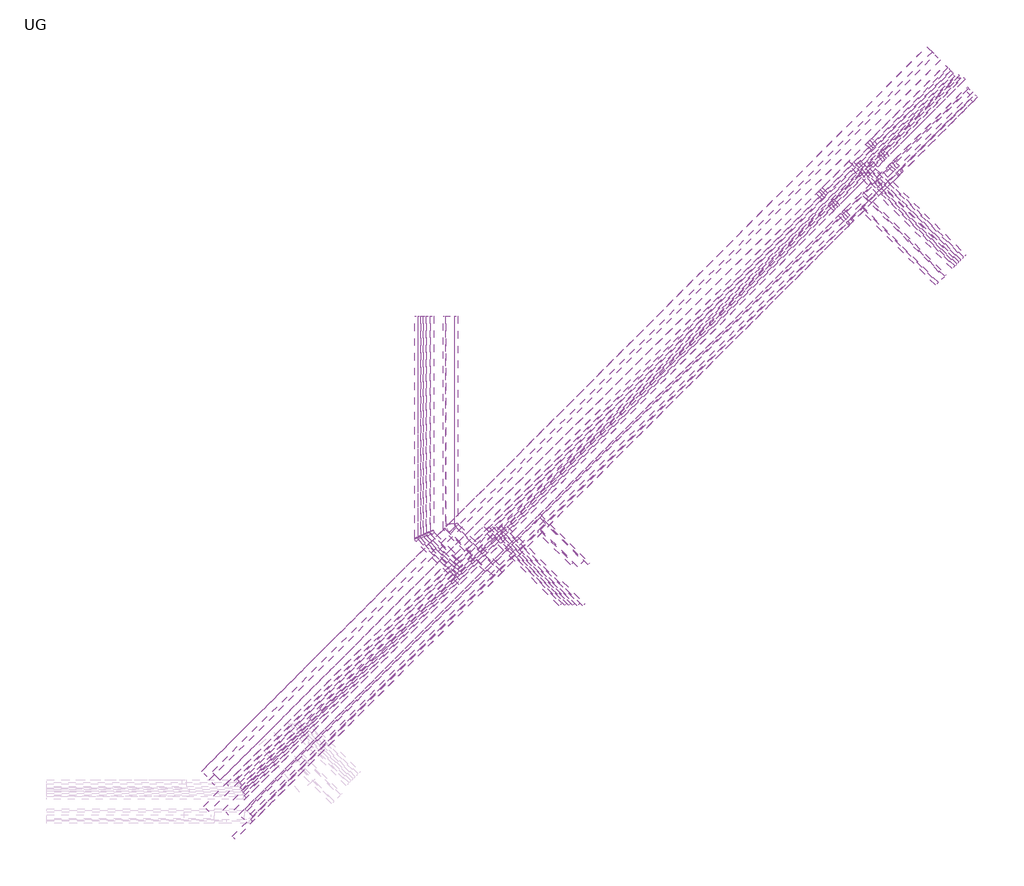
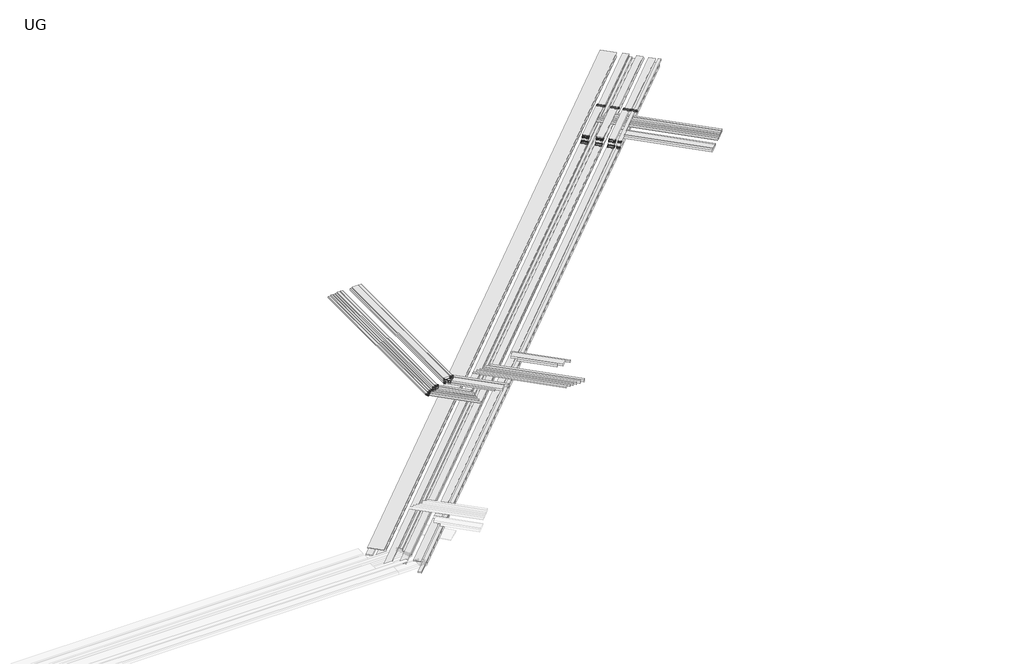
# One storey, part 14 of 14: 69 cable carrier segments, 30 cable carrier fittings.
"""IFC4 building model written with IfcOpenShell, lengths in millimetres."""

from ifc_helpers import new_model, si_unit, frame, origin, place, context, project, spatial, polyline, outline, extrude, transform, mapped, element, save
from components import cable_tray_horizontal_bend_a37de1d9, cable_tray_horizontal_bend_59db2054, cable_tray_horizontal_bend_460281a5, cable_tray_horizontal_bend_0aeb7664, cable_tray_reducer_1f1c3eca, cable_tray_reducer_8bddff3d, cable_tray_reducer_52994057, cable_tray_vertical_inside_bend_f6baaffd, cable_tray_vertical_inside_bend_2483429f, cable_tray_vertical_inside_bend_ecdc1448, cable_tray_vertical_inside_bend_bc6060de, cable_tray_vertical_outside_bend_59e16c32, cable_tray_vertical_outside_bend_fb3c5a79, cable_tray_vertical_outside_bend_d71164e9, cable_tray_vertical_outside_bend_15fc6071

model = new_model("IFC4")

# Units and contexts
model_context = context("Model", 3, world=origin())
ifc_project = project(units=[si_unit("LENGTHUNIT", "METRE", prefix="MILLI")], contexts=[model_context])

# Site, building, storey
site = spatial("IfcSite", under=ifc_project)
building = spatial("IfcBuilding", under=site)
storey = spatial("IfcBuildingStorey", under=building, Name="UG", Elevation=7925.0)

# Cable carrier fittings
placement = place(None, origin())
cable_tray_horizontal_bend_shape = cable_tray_horizontal_bend_a37de1d9(model_context)
element("IfcCableCarrierFitting", 1, ObjectType="Cable Tray Horizontal Bend : ELEC_ELV_TKG_N2402", at=placement, inside=storey, context=model_context, shape_type="MappedRepresentation", body=[
    mapped(cable_tray_horizontal_bend_shape, transform((265042.2929185, 37972.5027559, 13124.9999954), x_axis=(0.0, -1.0, 0.0), y_axis=(1.0, 0.0, 0.0), z_axis=(0.0, 0.0, 1.0))),
])
element("IfcCableCarrierFitting", 2, ObjectType="Cable Tray Horizontal Bend : ELEC_ELV_TKG_N2402", at=placement, inside=storey, context=model_context, shape_type="MappedRepresentation", body=[
    mapped(cable_tray_horizontal_bend_shape, transform((264042.2929149, 37664.590848, 13124.9999954), x_axis=(0.0, -1.0, 0.0), y_axis=(1.0, 0.0, 0.0), z_axis=(0.0, 0.0, 1.0))),
])
element("IfcCableCarrierFitting", 3, ObjectType="Cable Tray Horizontal Bend : ELEC_ELV_TKG_N2402", at=placement, inside=storey, context=model_context, shape_type="MappedRepresentation", body=[
    mapped(cable_tray_horizontal_bend_shape, transform((263742.2929149, 37540.3267793, 13124.9999954), x_axis=(0.0, -1.0, 0.0), y_axis=(1.0, 0.0, 0.0), z_axis=(0.0, 0.0, 1.0))),
])
cable_tray_horizontal_bend_2_shape = cable_tray_horizontal_bend_59db2054(model_context)
element("IfcCableCarrierFitting", 4, ObjectType="Cable Tray Horizontal Bend : ELEC_ELV_TKG_N2402", at=placement, inside=storey, context=model_context, shape_type="MappedRepresentation", body=[
    mapped(cable_tray_horizontal_bend_2_shape, transform((265667.2929139, 38231.386237, 13150.0), x_axis=(0.0, -1.0, 0.0), y_axis=(1.0, 0.0, 0.0), z_axis=(0.0, 0.0, 1.0))),
])
element("IfcCableCarrierFitting", 5, ObjectType="Cable Tray Horizontal Bend : ELEC_ELV_TKG_N2402", at=placement, inside=storey, context=model_context, shape_type="MappedRepresentation", body=[
    mapped(cable_tray_horizontal_bend_2_shape, transform((264417.2929149, 37819.9209339, 13149.9999954), x_axis=(0.0, -1.0, 0.0), y_axis=(1.0, 0.0, 0.0), z_axis=(0.0, 0.0, 1.0))),
])
element("IfcCableCarrierFitting", 6, ObjectType="Cable Tray Horizontal Bend : ELEC_ELV_TKG_N2402", at=placement, inside=storey, context=model_context, shape_type="MappedRepresentation", body=[
    mapped(cable_tray_horizontal_bend_2_shape, transform((264217.2929149, 37737.0782214, 13149.9999954), x_axis=(0.0, -1.0, 0.0), y_axis=(1.0, 0.0, 0.0), z_axis=(0.0, 0.0, 1.0))),
])
cable_tray_horizontal_bend_3_shape = cable_tray_horizontal_bend_460281a5(model_context)
element("IfcCableCarrierFitting", 7, ObjectType="Cable Tray Horizontal Bend : ELEC_ELV_TKG_N2402", at=placement, inside=storey, context=model_context, shape_type="MappedRepresentation", body=[
    mapped(cable_tray_horizontal_bend_3_shape, transform((265342.2929185, 38096.7668246, 13149.9999954), x_axis=(0.0, -1.0, 0.0), y_axis=(1.0, 0.0, 0.0), z_axis=(0.0, 0.0, 1.0))),
])
cable_tray_horizontal_bend_4_shape = cable_tray_horizontal_bend_0aeb7664(model_context)
element("IfcCableCarrierFitting", 8, ObjectType="Cable Tray Horizontal Bend : ELEC_ELV_CT_N2402", at=placement, inside=storey, context=model_context, shape_type="MappedRepresentation", body=[
    mapped(cable_tray_horizontal_bend_4_shape, transform((263592.292909, 37442.8394118, 13099.9999954), x_axis=(0.0, -1.0, 0.0), y_axis=(1.0, 0.0, 0.0), z_axis=(0.0, 0.0, 1.0))),
])
cable_tray_reducer_shape = cable_tray_reducer_1f1c3eca(model_context)
element("IfcCableCarrierFitting", 9, ObjectType="Cable Tray Reducer : ELEC_ELV_TKG_N2402", at=placement, inside=storey, context=model_context, shape_type="MappedRepresentation", body=[
    mapped(cable_tray_reducer_shape, transform((264417.2929149, 37882.0529682, 13149.9999954), x_axis=(0.0, 1.0, 0.0), y_axis=(-1.0, 0.0, 0.0), z_axis=(0.0, 0.0, 1.0))),
])
element("IfcCableCarrierFitting", 10, ObjectType="Cable Tray Reducer : ELEC_ELV_TKG_N2402", at=placement, inside=storey, context=model_context, shape_type="MappedRepresentation", body=[
    mapped(cable_tray_reducer_shape, transform((264217.2929149, 37799.2102558, 13149.9999954), x_axis=(0.0, 1.0, 0.0), y_axis=(-1.0, 0.0, 0.0), z_axis=(0.0, 0.0, 1.0))),
])
cable_tray_reducer_2_shape = cable_tray_reducer_8bddff3d(model_context)
element("IfcCableCarrierFitting", 11, ObjectType="Cable Tray Reducer : ELEC_ELV_TKG_N2402", at=placement, inside=storey, context=model_context, shape_type="MappedRepresentation", body=[
    mapped(cable_tray_reducer_2_shape, transform((264042.2929149, 37706.0122042, 13124.9999954), x_axis=(0.0, 1.0, 0.0), y_axis=(-1.0, 0.0, 0.0), z_axis=(0.0, 0.0, 1.0))),
])
element("IfcCableCarrierFitting", 12, ObjectType="Cable Tray Reducer : ELEC_ELV_TKG_N2402", at=placement, inside=storey, context=model_context, shape_type="MappedRepresentation", body=[
    mapped(cable_tray_reducer_2_shape, transform((263892.2929149, 37643.8801699, 13124.9999954), x_axis=(0.0, 1.0, 0.0), y_axis=(-1.0, 0.0, 0.0), z_axis=(0.0, 0.0, 1.0))),
])
element("IfcCableCarrierFitting", 13, ObjectType="Cable Tray Reducer : ELEC_ELV_TKG_N2402", at=placement, inside=storey, context=model_context, shape_type="MappedRepresentation", body=[
    mapped(cable_tray_reducer_2_shape, transform((263742.2929149, 37581.7481355, 13124.9999954), x_axis=(0.0, 1.0, 0.0), y_axis=(-1.0, 0.0, 0.0), z_axis=(0.0, 0.0, 1.0))),
])
cable_tray_reducer_3_shape = cable_tray_reducer_52994057(model_context)
element("IfcCableCarrierFitting", 14, ObjectType="Cable Tray Reducer : ELEC_ELV_TKG_N2402", at=placement, inside=storey, context=model_context, shape_type="MappedRepresentation", body=[
    mapped(cable_tray_reducer_3_shape, transform((263592.292909, 37504.9714461, 13099.9999954), x_axis=(0.0, 1.0, 0.0), y_axis=(-1.0, 0.0, 0.0), z_axis=(0.0, 0.0, 1.0))),
])
cable_tray_vertical_inside_bend_shape = cable_tray_vertical_inside_bend_f6baaffd(model_context)
element("IfcCableCarrierFitting", 15, ObjectType="Cable Tray Vertical Inside Bend : ELEC_SUB_CT_N2402", at=placement, inside=storey, context=model_context, shape_type="MappedRepresentation", body=[
    mapped(cable_tray_vertical_inside_bend_shape, transform((284436.8327025, 55215.2179171, 13025.0000358), x_axis=(-0.49999999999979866, -0.500000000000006, -0.7071067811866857), y_axis=(-0.5000000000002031, -0.49999999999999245, 0.7071067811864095), z_axis=(-0.7071067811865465, 0.7071067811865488, 0.0))),
])
element("IfcCableCarrierFitting", 16, ObjectType="Cable Tray Vertical Inside Bend : ELEC_SUB_CT_N2402", at=placement, inside=storey, context=model_context, shape_type="MappedRepresentation", body=[
    mapped(cable_tray_vertical_inside_bend_shape, transform((285038.4713292, 54613.5792904, 13025.0000358), x_axis=(-0.5000000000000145, -0.4999999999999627, -0.7071067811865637), y_axis=(-0.499999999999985, -0.5000000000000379, 0.7071067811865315), z_axis=(-0.7071067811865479, 0.7071067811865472, 0.0))),
])
element("IfcCableCarrierFitting", 17, ObjectType="Cable Tray Vertical Inside Bend : ELEC_SUB_CT_N2402", at=placement, inside=storey, context=model_context, shape_type="MappedRepresentation", body=[
    mapped(cable_tray_vertical_inside_bend_shape, transform((285568.2035459, 54083.8470738, 13025.0000368), x_axis=(-0.5000000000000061, -0.49999999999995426, -0.7071067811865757), y_axis=(-0.49999999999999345, -0.5000000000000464, 0.7071067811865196), z_axis=(-0.707106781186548, 0.7071067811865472, 0.0))),
])
cable_tray_vertical_inside_bend_2_shape = cable_tray_vertical_inside_bend_2483429f(model_context)
element("IfcCableCarrierFitting", 18, ObjectType="Cable Tray Vertical Inside Bend : ELEC_SUB_CT_N2402", at=placement, inside=storey, context=model_context, shape_type="MappedRepresentation", body=[
    mapped(cable_tray_vertical_inside_bend_2_shape, transform((288608.7627028, 56488.010132, 13025.0000383), x_axis=(-0.7071067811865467, -0.7071067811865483, 0.0), y_axis=(0.0, 0.0, 1.0), z_axis=(-0.7071067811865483, 0.7071067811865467, 0.0))),
])
cable_tray_vertical_inside_bend_3_shape = cable_tray_vertical_inside_bend_ecdc1448(model_context)
element("IfcCableCarrierFitting", 19, ObjectType="Cable Tray Vertical Inside Bend : ELEC_SUB_CT_N2402", at=placement, inside=storey, context=model_context, shape_type="MappedRepresentation", body=[
    mapped(cable_tray_vertical_inside_bend_3_shape, transform((287159.1938101, 57937.5790247, 13025.0000358), x_axis=(-0.7071067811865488, -0.7071067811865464, 0.0), y_axis=(0.0, 0.0, 1.0), z_axis=(-0.7071067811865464, 0.7071067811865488, 0.0))),
])
element("IfcCableCarrierFitting", 20, ObjectType="Cable Tray Vertical Inside Bend : ELEC_SUB_CT_N2402", at=placement, inside=storey, context=model_context, shape_type="MappedRepresentation", body=[
    mapped(cable_tray_vertical_inside_bend_3_shape, transform((287760.8324368, 57335.940398, 13025.0000358), x_axis=(-0.7071067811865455, -0.7071067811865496, 0.0), y_axis=(0.0, 0.0, 1.0), z_axis=(-0.7071067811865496, 0.7071067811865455, 0.0))),
])
element("IfcCableCarrierFitting", 21, ObjectType="Cable Tray Vertical Inside Bend : ELEC_SUB_CT_N2402", at=placement, inside=storey, context=model_context, shape_type="MappedRepresentation", body=[
    mapped(cable_tray_vertical_inside_bend_3_shape, transform((288290.5646534, 56806.2081814, 13025.0000368), x_axis=(-0.7071067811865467, -0.7071067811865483, 0.0), y_axis=(0.0, 0.0, 1.0), z_axis=(-0.7071067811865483, 0.7071067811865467, 0.0))),
])
cable_tray_vertical_inside_bend_4_shape = cable_tray_vertical_inside_bend_bc6060de(model_context)
element("IfcCableCarrierFitting", 22, ObjectType="Cable Tray Vertical Inside Bend : ELEC_SUB_CT_N2402", at=placement, inside=storey, context=model_context, shape_type="MappedRepresentation", body=[
    mapped(cable_tray_vertical_inside_bend_4_shape, transform((285886.4015953, 53765.6490244, 13025.0000383), x_axis=(0.707106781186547, 0.707106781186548, 0.0), y_axis=(0.0, 0.0, 1.0), z_axis=(0.707106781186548, -0.707106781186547, 0.0))),
])
cable_tray_vertical_outside_bend_shape = cable_tray_vertical_outside_bend_59e16c32(model_context)
element("IfcCableCarrierFitting", 23, ObjectType="Cable Tray Vertical Outside Bend : ELEC_SUB_CT_N2402", at=placement, inside=storey, context=model_context, shape_type="MappedRepresentation", body=[
    mapped(cable_tray_vertical_outside_bend_shape, transform((284613.6093725, 55391.9945871, 13275.0), x_axis=(0.49999999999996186, 0.4999999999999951, 0.707106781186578), y_axis=(0.5000000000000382, 0.5000000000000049, -0.7071067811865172), z_axis=(-0.7071067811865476, 0.7071067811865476, 0.0))),
])
element("IfcCableCarrierFitting", 24, ObjectType="Cable Tray Vertical Outside Bend : ELEC_SUB_CT_N2402", at=placement, inside=storey, context=model_context, shape_type="MappedRepresentation", body=[
    mapped(cable_tray_vertical_outside_bend_shape, transform((285215.2479992, 54790.3559604, 13275.0), x_axis=(0.5000000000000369, 0.49999999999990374, 0.7071067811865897), y_axis=(0.49999999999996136, 0.5000000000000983, -0.7071067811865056), z_axis=(-0.7071067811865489, 0.7071067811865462, 0.0))),
])
element("IfcCableCarrierFitting", 25, ObjectType="Cable Tray Vertical Outside Bend : ELEC_SUB_CT_N2402", at=placement, inside=storey, context=model_context, shape_type="MappedRepresentation", body=[
    mapped(cable_tray_vertical_outside_bend_shape, transform((285744.9802151, 54260.623743, 13275.0), x_axis=(0.5000000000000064, 0.49999999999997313, 0.707106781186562), y_axis=(0.4999999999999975, 0.5000000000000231, -0.707106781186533), z_axis=(-0.7071067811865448, 0.7071067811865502, 0.0))),
])
cable_tray_vertical_outside_bend_2_shape = cable_tray_vertical_outside_bend_fb3c5a79(model_context)
element("IfcCableCarrierFitting", 26, ObjectType="Cable Tray Vertical Outside Bend : ELEC_SUB_CT_N2402", at=placement, inside=storey, context=model_context, shape_type="MappedRepresentation", body=[
    mapped(cable_tray_vertical_outside_bend_2_shape, transform((288431.9860346, 56311.2334638, 13275.0), x_axis=(-0.5000000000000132, -0.49999999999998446, 0.7071067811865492), y_axis=(-0.49999999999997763, -0.5000000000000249, -0.7071067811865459), z_axis=(0.7071067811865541, -0.707106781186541, 0.0))),
])
cable_tray_vertical_outside_bend_3_shape = cable_tray_vertical_outside_bend_d71164e9(model_context)
element("IfcCableCarrierFitting", 27, ObjectType="Cable Tray Vertical Outside Bend : ELEC_SUB_CT_N2402", at=placement, inside=storey, context=model_context, shape_type="MappedRepresentation", body=[
    mapped(cable_tray_vertical_outside_bend_3_shape, transform((286982.4171394, 57760.802354, 13275.0000035), x_axis=(-0.4999999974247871, -0.4999999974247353, 0.7071067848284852), y_axis=(-0.5000000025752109, -0.5000000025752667, -0.7071067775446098), z_axis=(0.7071067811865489, -0.7071067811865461, 0.0))),
])
element("IfcCableCarrierFitting", 28, ObjectType="Cable Tray Vertical Outside Bend : ELEC_SUB_CT_N2402", at=placement, inside=storey, context=model_context, shape_type="MappedRepresentation", body=[
    mapped(cable_tray_vertical_outside_bend_3_shape, transform((287584.0557661, 57159.1637273, 13275.0000035), x_axis=(-0.49999999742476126, -0.4999999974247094, 0.7071067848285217), y_axis=(-0.5000000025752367, -0.5000000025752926, -0.7071067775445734), z_axis=(0.707106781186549, -0.7071067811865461, 0.0))),
])
element("IfcCableCarrierFitting", 29, ObjectType="Cable Tray Vertical Outside Bend : ELEC_SUB_CT_N2402", at=placement, inside=storey, context=model_context, shape_type="MappedRepresentation", body=[
    mapped(cable_tray_vertical_outside_bend_3_shape, transform((288113.7879835, 56629.4315114, 13275.0000036), x_axis=(-0.499999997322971, -0.499999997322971, 0.7071067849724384), y_axis=(-0.5000000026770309, -0.5000000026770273, -0.7071067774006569), z_axis=(0.7071067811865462, -0.7071067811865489, 0.0))),
])
cable_tray_vertical_outside_bend_4_shape = cable_tray_vertical_outside_bend_15fc6071(model_context)
element("IfcCableCarrierFitting", 30, ObjectType="Cable Tray Vertical Outside Bend : ELEC_SUB_CT_N2402", at=placement, inside=storey, context=model_context, shape_type="MappedRepresentation", body=[
    mapped(cable_tray_vertical_outside_bend_4_shape, transform((286063.1782639, 53942.425693, 13275.0000032), x_axis=(0.49999999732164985, 0.49999999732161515, 0.7071067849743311), y_axis=(0.5000000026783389, 0.5000000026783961, -0.7071067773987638), z_axis=(-0.7071067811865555, 0.7071067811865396, 0.0))),
])

# Cable carrier segments
element("IfcCableCarrierSegment", 31, ObjectType="ELEC_ELV_TKG_N2402", at=placement, inside=storey, context=model_context, shape_type="SweptSolid", body=[
    extrude(outline(polyline([(255155.0671538, 23175.7359349), (254872.2244413, 23458.5786474), (291970.9085491, 60557.2627552), (292253.7512616, 60274.4200427), (255155.0671538, 23175.7359349)])), frame((0.0, 0.0, 12749.9999922), z_axis=(0.0, 0.0, 1.0), x_axis=(1.0, 0.0, 0.0)), (0.0, 0.0, 1.0), 150.0),
])
element("IfcCableCarrierSegment", 32, ObjectType="ELEC_ELV_TKG_N2402", at=placement, inside=storey, context=model_context, shape_type="SweptSolid", body=[
    extrude(outline(polyline([(255163.6206294, 22901.4466979), (255057.5546122, 23007.5127151), (292194.6631588, 60144.6212618), (292300.729176, 60038.5552446), (255163.6206294, 22901.4466979)])), frame((0.0, 0.0, 12749.9999922), z_axis=(0.0, 0.0, 1.0), x_axis=(1.0, 0.0, 0.0)), (0.0, 0.0, 1.0), 150.0),
])
element("IfcCableCarrierSegment", 33, ObjectType="ELEC_ELV_TKG_N2402", at=placement, inside=storey, context=model_context, shape_type="SweptSolid", body=[
    extrude(outline(polyline([(1e-07, -100.0), (0.0, 0.0), (52588.7513197, 0.0), (52588.7513196, -100.0), (1e-07, -100.0)])), frame((254766.1584272, 23564.6446676, 12749.9913723), z_axis=(-1.1590281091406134e-07, -1.1590281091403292e-07, 0.9999999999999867), x_axis=(0.7071067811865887, 0.7071067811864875, 1.6391132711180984e-07)), (0.0, 0.0, 1.0), 100.0),
])
element("IfcCableCarrierSegment", 34, ObjectType="ELEC_ELV_CT_N2402", at=placement, inside=storey, context=model_context, shape_type="SweptSolid", body=[
    extrude(outline(polyline([(285796.3395371, 56857.5674642), (285902.4055543, 56963.6334814), (291340.0567047, 51525.9823309), (291233.9906875, 51419.9163138), (285796.3395371, 56857.5674642)])), frame((0.0, 0.0, 13050.0000081), z_axis=(0.0, 0.0, 1.0), x_axis=(1.0, 0.0, 0.0)), (0.0, 0.0, 1.0), 50.0),
])
element("IfcCableCarrierSegment", 35, ObjectType="ELEC_ELV_TKG_N2402", at=placement, inside=storey, context=model_context, shape_type="SweptSolid", body=[
    extrude(outline(polyline([(286291.3142839, 56857.5674642), (286362.0249621, 56928.2781423), (291552.188739, 51738.1143653), (291481.4780609, 51667.4036872), (286291.3142839, 56857.5674642)])), frame((0.0, 0.0, 13050.0000081), z_axis=(0.0, 0.0, 1.0), x_axis=(1.0, 0.0, 0.0)), (0.0, 0.0, 1.0), 100.0),
])
element("IfcCableCarrierSegment", 36, ObjectType="ELEC_ELV_TKG_N2402", at=placement, inside=storey, context=model_context, shape_type="SweptSolid", body=[
    extrude(outline(polyline([(286503.4463183, 56857.5674642), (286574.1569964, 56928.2781423), (291658.2547562, 51844.1803825), (291587.5440781, 51773.4697044), (286503.4463183, 56857.5674642)])), frame((0.0, 0.0, 13050.0000081), z_axis=(0.0, 0.0, 1.0), x_axis=(1.0, 0.0, 0.0)), (0.0, 0.0, 1.0), 100.0),
])
element("IfcCableCarrierSegment", 37, ObjectType="ELEC_ELV_TKG_N2402", at=placement, inside=storey, context=model_context, shape_type="SweptSolid", body=[
    extrude(outline(polyline([(286079.1822496, 56857.5674642), (286149.8929277, 56928.2781423), (291446.1227219, 51632.0483481), (291375.4120437, 51561.33767), (286079.1822496, 56857.5674642)])), frame((0.0, 0.0, 13050.0000081), z_axis=(0.0, 0.0, 1.0), x_axis=(1.0, 0.0, 0.0)), (0.0, 0.0, 1.0), 100.0),
])
element("IfcCableCarrierSegment", 38, ObjectType="ELEC_ELV_TKG_N2402", at=placement, inside=storey, context=model_context, shape_type="SweptSolid", body=[
    extrude(outline(polyline([(286715.5783526, 56857.5674642), (286821.6443698, 56963.6334814), (291799.6761125, 51985.6017387), (291693.6100953, 51879.5357215), (286715.5783526, 56857.5674642)])), frame((0.0, 0.0, 13050.0000081), z_axis=(0.0, 0.0, 1.0), x_axis=(1.0, 0.0, 0.0)), (0.0, 0.0, 1.0), 150.0),
])
element("IfcCableCarrierSegment", 39, ObjectType="ELEC_ELV_TKG_N2402", at=placement, inside=storey, context=model_context, shape_type="SweptSolid", body=[
    extrude(outline(polyline([(286326.6025971, 54912.9568031), (286609.4453096, 55195.7995156), (290809.6595995, 50995.5852257), (290526.816887, 50712.7425132), (286326.6025971, 54912.9568031)])), frame((0.0, 0.0, 13050.0), z_axis=(0.0, 0.0, 1.0), x_axis=(1.0, 0.0, 0.0)), (0.0, 0.0, 1.0), 150.0),
])
element("IfcCableCarrierSegment", 40, ObjectType="ELEC_ELV_TKG_N2402", at=placement, inside=storey, context=model_context, shape_type="SweptSolid", body=[
    extrude(outline(polyline([(286538.7346314, 55337.2208718), (286609.4453096, 55407.93155), (290915.7256166, 51101.6512429), (290845.0149385, 51030.9405648), (286538.7346314, 55337.2208718)])), frame((0.0, 0.0, 13050.0000081), z_axis=(0.0, 0.0, 1.0), x_axis=(1.0, 0.0, 0.0)), (0.0, 0.0, 1.0), 100.0),
])
element("IfcCableCarrierSegment", 41, ObjectType="ELEC_ELV_TKG_N2402", at=placement, inside=storey, context=model_context, shape_type="SweptSolid", body=[
    extrude(outline(polyline([(286998.4210651, 56857.5674642), (287104.4870823, 56963.6334814), (291941.0974687, 52127.023095), (291835.0314515, 52020.9570778), (286998.4210651, 56857.5674642)])), frame((0.0, 0.0, 13050.0000081), z_axis=(0.0, 0.0, 1.0), x_axis=(1.0, 0.0, 0.0)), (0.0, 0.0, 1.0), 150.0),
])
element("IfcCableCarrierSegment", 42, ObjectType="ELEC_ELV_TKG_N2402", at=placement, inside=storey, context=model_context, shape_type="SweptSolid", body=[
    extrude(outline(polyline([(286503.3792924, 54453.3373954), (286609.4453096, 54559.4034125), (290491.4615479, 50677.3871742), (290385.3955307, 50571.321157), (286503.3792924, 54453.3373954)])), frame((0.0, 0.0, 13050.0), z_axis=(0.0, 0.0, 1.0), x_axis=(1.0, 0.0, 0.0)), (0.0, 0.0, 1.0), 150.0),
])
element("IfcCableCarrierSegment", 43, ObjectType="ELEC_ELV_TKG_N2402", at=placement, inside=storey, context=model_context, shape_type="SweptSolid", body=[
    extrude(outline(polyline([(265742.2929139, 38293.5182713), (265592.2929139, 38293.5182713), (265592.2929139, 48970.9387053), (265742.2929139, 48970.9387053), (265742.2929139, 38293.5182713)])), frame((0.0, 0.0, 13075.0), z_axis=(0.0, 0.0, 1.0), x_axis=(1.0, 0.0, 0.0)), (0.0, 0.0, 1.0), 150.0),
])
element("IfcCableCarrierSegment", 44, ObjectType="ELEC_ELV_TKG_N2402", at=placement, inside=storey, context=model_context, shape_type="SweptSolid", body=[
    extrude(outline(polyline([(265542.2929185, 38262.4522496), (265142.2929185, 38262.4522496), (265142.2929185, 48970.9387053), (265542.2929185, 48970.9387053), (265542.2929185, 38262.4522496)])), frame((0.0, 0.0, 13074.9999954), z_axis=(0.0, 0.0, 1.0), x_axis=(1.0, 0.0, 0.0)), (0.0, 0.0, 1.0), 150.0),
])
element("IfcCableCarrierSegment", 45, ObjectType="ELEC_ELV_TKG_N2402", at=placement, inside=storey, context=model_context, shape_type="SweptSolid", body=[
    extrude(outline(polyline([(265092.2929185, 38013.9241121), (264992.2929185, 38013.9241121), (264992.2929185, 48970.9387053), (265092.2929185, 48970.9387053), (265092.2929185, 38013.9241121)])), frame((0.0, 0.0, 13074.9999954), z_axis=(0.0, 0.0, 1.0), x_axis=(1.0, 0.0, 0.0)), (0.0, 0.0, 1.0), 100.0),
])
element("IfcCableCarrierSegment", 46, ObjectType="ELEC_ELV_TKG_N2402", at=placement, inside=storey, context=model_context, shape_type="SweptSolid", body=[
    extrude(outline(polyline([(264292.2929149, 37849.2102558), (264142.2929149, 37849.2102558), (264142.2929149, 48970.9387053), (264292.2929149, 48970.9387053), (264292.2929149, 37849.2102558)])), frame((0.0, 0.0, 13054.9999995), z_axis=(0.0, 0.0, 1.0), x_axis=(1.0, 0.0, 0.0)), (0.0, 0.0, 1.0), 150.0),
])
element("IfcCableCarrierSegment", 47, ObjectType="ELEC_ELV_TKG_N2402", at=placement, inside=storey, context=model_context, shape_type="SweptSolid", body=[
    extrude(outline(polyline([(263792.2929149, 37631.7481355), (263692.2929149, 37631.7481355), (263692.2929149, 48970.9387053), (263792.2929149, 48970.9387053), (263792.2929149, 37631.7481355)])), frame((0.0, 0.0, 13054.9999995), z_axis=(0.0, 0.0, 1.0), x_axis=(1.0, 0.0, 0.0)), (0.0, 0.0, 1.0), 100.0),
])
element("IfcCableCarrierSegment", 48, ObjectType="ELEC_ELV_TKG_N2402", at=placement, inside=storey, context=model_context, shape_type="SweptSolid", body=[
    extrude(outline(polyline([(263942.2929149, 37693.8801699), (263842.2929149, 37693.8801699), (263842.2929149, 48970.9387053), (263942.2929149, 48970.9387053), (263942.2929149, 37693.8801699)])), frame((0.0, 0.0, 13054.9999995), z_axis=(0.0, 0.0, 1.0), x_axis=(1.0, 0.0, 0.0)), (0.0, 0.0, 1.0), 100.0),
])
element("IfcCableCarrierSegment", 49, ObjectType="ELEC_ELV_CT_N2402", at=placement, inside=storey, context=model_context, shape_type="SweptSolid", body=[
    extrude(outline(polyline([(263667.292909, 37554.9714461), (263517.292909, 37554.9714461), (263517.292909, 48970.9387053), (263667.292909, 48970.9387053), (263667.292909, 37554.9714461)])), frame((0.0, 0.0, 13054.9999995), z_axis=(0.0, 0.0, 1.0), x_axis=(1.0, 0.0, 0.0)), (0.0, 0.0, 1.0), 50.0),
])
element("IfcCableCarrierSegment", 50, ObjectType="ELEC_ELV_TKG_N2402", at=placement, inside=storey, context=model_context, shape_type="SweptSolid", body=[
    extrude(outline(polyline([(264492.2929149, 37932.0529682), (264342.2929149, 37932.0529682), (264342.2929149, 48970.9387053), (264492.2929149, 48970.9387053), (264492.2929149, 37932.0529682)])), frame((0.0, 0.0, 13054.9999995), z_axis=(0.0, 0.0, 1.0), x_axis=(1.0, 0.0, 0.0)), (0.0, 0.0, 1.0), 150.0),
])
element("IfcCableCarrierSegment", 51, ObjectType="ELEC_ELV_TKG_N2402", at=placement, inside=storey, context=model_context, shape_type="SweptSolid", body=[
    extrude(outline(polyline([(264092.2929149, 37756.0122042), (263992.2929149, 37756.0122042), (263992.2929149, 48970.9387053), (264092.2929149, 48970.9387053), (264092.2929149, 37756.0122042)])), frame((0.0, 0.0, 13054.9999995), z_axis=(0.0, 0.0, 1.0), x_axis=(1.0, 0.0, 0.0)), (0.0, 0.0, 1.0), 100.0),
])
element("IfcCableCarrierSegment", 52, ObjectType="ELEC_ELV_CT_N2402", at=placement, inside=storey, context=model_context, shape_type="SweptSolid", body=[
    extrude(outline(polyline([(266971.3709026, 38032.5988297), (267077.4369198, 38138.6648469), (271081.1047426, 34134.9970241), (270975.0387255, 34028.9310069), (266971.3709026, 38032.5988297)])), frame((0.0, 0.0, 13049.9999954), z_axis=(0.0, 0.0, 1.0), x_axis=(1.0, 0.0, 0.0)), (0.0, 0.0, 1.0), 50.0),
])
element("IfcCableCarrierSegment", 53, ObjectType="ELEC_ELV_TKG_N2402", at=placement, inside=storey, context=model_context, shape_type="SweptSolid", body=[
    extrude(outline(polyline([(267448.6679841, 38050.2764951), (267519.3786622, 38120.9871732), (271523.0464809, 34117.3193546), (271452.3358028, 34046.6086764), (267448.6679841, 38050.2764951)])), frame((0.0, 0.0, 13049.9999954), z_axis=(0.0, 0.0, 1.0), x_axis=(1.0, 0.0, 0.0)), (0.0, 0.0, 1.0), 100.0),
])
element("IfcCableCarrierSegment", 54, ObjectType="ELEC_ELV_TKG_N2402", at=placement, inside=storey, context=model_context, shape_type="SweptSolid", body=[
    extrude(outline(polyline([(271735.1785152, 34117.3193546), (271664.4678371, 34046.6086764), (267660.8000185, 38050.2764951), (267731.5106966, 38120.9871732), (271735.1785152, 34117.3193546)])), frame((0.0, 0.0, 13049.9999954), z_axis=(0.0, 0.0, 1.0), x_axis=(1.0, 0.0, 0.0)), (0.0, 0.0, 1.0), 100.0),
])
element("IfcCableCarrierSegment", 55, ObjectType="ELEC_ELV_TKG_N2402", at=placement, inside=storey, context=model_context, shape_type="SweptSolid", body=[
    extrude(outline(polyline([(271310.9144465, 34117.3193546), (271240.2037684, 34046.6086764), (267236.5359498, 38050.2764951), (267307.2466279, 38120.9871732), (271310.9144465, 34117.3193546)])), frame((0.0, 0.0, 13049.9999954), z_axis=(0.0, 0.0, 1.0), x_axis=(1.0, 0.0, 0.0)), (0.0, 0.0, 1.0), 100.0),
])
element("IfcCableCarrierSegment", 56, ObjectType="ELEC_ELV_TKG_N2402", at=placement, inside=storey, context=model_context, shape_type="SweptSolid", body=[
    extrude(outline(polyline([(267872.9320528, 38050.2764951), (267978.99807, 38156.3425123), (272000.3435582, 34134.9970241), (271894.277541, 34028.9310069), (267872.9320528, 38050.2764951)])), frame((0.0, 0.0, 13049.9999954), z_axis=(0.0, 0.0, 1.0), x_axis=(1.0, 0.0, 0.0)), (0.0, 0.0, 1.0), 150.0),
])
element("IfcCableCarrierSegment", 57, ObjectType="ELEC_ELV_TKG_N2402", at=placement, inside=storey, context=model_context, shape_type="SweptSolid", body=[
    extrude(outline(polyline([(269693.6649876, 38280.0191871), (269976.5077, 38562.8618996), (272212.3415439, 36327.0280557), (271929.4988314, 36044.1853433), (269693.6649876, 38280.0191871)])), frame((0.0, 0.0, 13049.9999873), z_axis=(0.0, 0.0, 1.0), x_axis=(1.0, 0.0, 0.0)), (0.0, 0.0, 1.0), 150.0),
])
element("IfcCableCarrierSegment", 58, ObjectType="ELEC_ELV_TKG_N2402", at=placement, inside=storey, context=model_context, shape_type="SweptSolid", body=[
    extrude(outline(polyline([(271664.3337884, 36238.6397081), (271558.2677713, 36132.5736909), (269870.4416796, 37820.3997826), (269976.5076968, 37926.4657998), (271664.3337884, 36238.6397081)])), frame((0.0, 0.0, 13049.9999873), z_axis=(0.0, 0.0, 1.0), x_axis=(1.0, 0.0, 0.0)), (0.0, 0.0, 1.0), 150.0),
])
element("IfcCableCarrierSegment", 59, ObjectType="ELEC_ELV_TKG_N2402", at=placement, inside=storey, context=model_context, shape_type="SweptSolid", body=[
    extrude(outline(polyline([(272530.5395954, 36220.9620386), (272459.8289173, 36150.2513605), (269905.7970219, 38704.2832558), (269976.5077, 38774.9939339), (272530.5395954, 36220.9620386)])), frame((0.0, 0.0, 13049.9999954), z_axis=(0.0, 0.0, 1.0), x_axis=(1.0, 0.0, 0.0)), (0.0, 0.0, 1.0), 100.0),
])
element("IfcCableCarrierSegment", 60, ObjectType="ELEC_ELV_TKG_N2402", at=placement, inside=storey, context=model_context, shape_type="SweptSolid", body=[
    extrude(outline(polyline([(268155.7747653, 38050.2764951), (268261.8407825, 38156.3425123), (272283.1862707, 34134.9970241), (272177.1202535, 34028.9310069), (268155.7747653, 38050.2764951)])), frame((0.0, 0.0, 13049.9999954), z_axis=(0.0, 0.0, 1.0), x_axis=(1.0, 0.0, 0.0)), (0.0, 0.0, 1.0), 150.0),
])
element("IfcCableCarrierSegment", 61, ObjectType="ELEC_SUB_CT_N2402", at=placement, inside=storey, context=model_context, shape_type="SweptSolid", body=[
    extrude(outline(polyline([(252814.7300724, 25219.4608873), (252531.8873599, 25502.3035997), (289916.9102549, 62887.3264948), (290199.7529674, 62604.4837823), (252814.7300724, 25219.4608873)])), frame((0.0, 0.0, 12750.0000011), z_axis=(0.0, 0.0, 1.0), x_axis=(1.0, 0.0, 0.0)), (0.0, 0.0, 1.0), 50.0),
])
element("IfcCableCarrierSegment", 62, ObjectType="ELEC_SUB_CT_N2402", at=placement, inside=storey, context=model_context, shape_type="SweptSolid", body=[
    extrude(outline(polyline([(253213.2582145, 24769.4608873), (252930.415502, 25052.3035997), (290341.174326, 62463.0624237), (290624.0170385, 62180.2197112), (253213.2582145, 24769.4608873)])), frame((0.0, 0.0, 12750.0000011), z_axis=(0.0, 0.0, 1.0), x_axis=(1.0, 0.0, 0.0)), (0.0, 0.0, 1.0), 50.0),
])
element("IfcCableCarrierSegment", 63, ObjectType="ELEC_MAIN_CT_N2402", at=placement, inside=storey, context=model_context, shape_type="SweptSolid", body=[
    extrude(outline(polyline([(253479.8951568, 25036.0978342), (252772.7883756, 25743.2046154), (289916.9102549, 62887.3264948), (290624.0170361, 62180.2197136), (253479.8951568, 25036.0978342)])), frame((0.0, 0.0, 13000.000029), z_axis=(0.0, 0.0, 1.0), x_axis=(1.0, 0.0, 0.0)), (0.0, 0.0, 1.0), 50.0),
])
element("IfcCableCarrierSegment", 64, ObjectType="ELEC_SUB_CT_N2402", at=placement, inside=storey, context=model_context, shape_type="SweptSolid", body=[
    extrude(outline(polyline([(287968.1547677, 57260.4200165), (287685.3120553, 57543.262729), (291473.143038, 61331.0937117), (291755.9857505, 61048.2509992), (287968.1547677, 57260.4200165)])), frame((0.0, 0.0, 13000.0000358), z_axis=(0.0, 0.0, 1.0), x_axis=(1.0, 0.0, 0.0)), (0.0, 0.0, 1.0), 50.0),
])
element("IfcCableCarrierSegment", 65, ObjectType="ELEC_SUB_CT_N2402", at=placement, inside=storey, context=model_context, shape_type="SweptSolid", body=[
    extrude(outline(polyline([(287366.516141, 57862.0586432), (287083.6734286, 58144.9013556), (290871.5044113, 61932.7323384), (291154.3471238, 61649.8896259), (287366.516141, 57862.0586432)])), frame((0.0, 0.0, 13000.0000358), z_axis=(0.0, 0.0, 1.0), x_axis=(1.0, 0.0, 0.0)), (0.0, 0.0, 1.0), 50.0),
])
element("IfcCableCarrierSegment", 66, ObjectType="ELEC_SUB_CT_N2402", at=placement, inside=storey, context=model_context, shape_type="SweptSolid", body=[
    extrude(outline(polyline([(288716.0850333, 56453.9111062), (288574.6636771, 56595.3324624), (292391.7839822, 60412.4527676), (292533.2053384, 60271.0314113), (288716.0850333, 56453.9111062)])), frame((0.0, 0.0, 13000.0000383), z_axis=(0.0, 0.0, 1.0), x_axis=(1.0, 0.0, 0.0)), (0.0, 0.0, 1.0), 50.0),
])
element("IfcCableCarrierSegment", 67, ObjectType="ELEC_SUB_CT_N2402", at=placement, inside=storey, context=model_context, shape_type="SweptSolid", body=[
    extrude(outline(polyline([(288497.8869844, 56730.6877998), (288215.0442719, 57013.5305123), (292002.8752547, 60801.3614951), (292285.7179671, 60518.5187826), (288497.8869844, 56730.6877998)])), frame((0.0, 0.0, 13000.0000368), z_axis=(0.0, 0.0, 1.0), x_axis=(1.0, 0.0, 0.0)), (0.0, 0.0, 1.0), 50.0),
])
element("IfcCableCarrierSegment", 68, ObjectType="ELEC_ELV_CT_N2402", at=placement, inside=storey, context=model_context, shape_type="SweptSolid", body=[
    extrude(outline(polyline([(1e-07, -149.9999999), (0.0, 0.0), (52436.5562479, 0.0), (52436.5562479, -150.0), (1e-07, -149.9999999)])), frame((254716.3738011, 24221.9691445, 12755.0037775), z_axis=(8.598966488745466e-05, -8.59896648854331e-05, 0.9999999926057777), x_axis=(0.7071067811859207, 0.7071067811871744, 0.0)), (0.0, 0.0, 1.0), 50.0),
])
element("IfcCableCarrierSegment", 69, ObjectType="ELEC_ELV_TKG_N2402", at=placement, inside=storey, context=model_context, shape_type="SweptSolid", body=[
    extrude(outline(polyline([(0.0, -100.0), (0.0, 0.0), (52250.7302428, 0.0), (52250.7302428, -100.0000001), (0.0, -100.0)])), frame((254584.7832861, 24514.6489962, 12755.0025389), z_axis=(8.658879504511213e-05, -8.663554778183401e-05, 0.9999999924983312), x_axis=(0.7071067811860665, 0.7071067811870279, 3.305917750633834e-08)), (0.0, 0.0, 1.0), 100.0),
])
element("IfcCableCarrierSegment", 70, ObjectType="ELEC_ELV_TKG_N2402", at=placement, inside=storey, context=model_context, shape_type="SweptSolid", body=[
    extrude(outline(polyline([(254752.9856389, 24329.2893254), (254682.2749607, 24400.0000036), (291594.1100145, 61311.8350573), (291664.8206926, 61241.1243792), (254752.9856389, 24329.2893254)])), frame((0.0, 0.0, 12749.9999981), z_axis=(0.0, 0.0, 1.0), x_axis=(1.0, 0.0, 0.0)), (0.0, 0.0, 1.0), 100.0),
])
element("IfcCableCarrierSegment", 71, ObjectType="ELEC_ELV_TKG_N2402", at=placement, inside=storey, context=model_context, shape_type="SweptSolid", body=[
    extrude(outline(polyline([(254593.3662311, 24593.9339864), (254522.655553, 24664.6446645), (291280.2696581, 61422.2587696), (291350.9803362, 61351.5480915), (254593.3662311, 24593.9339864)])), frame((0.0, 0.0, 12754.9999995), z_axis=(0.0, 0.0, 1.0), x_axis=(1.0, 0.0, 0.0)), (0.0, 0.0, 1.0), 100.0),
])
element("IfcCableCarrierSegment", 72, ObjectType="ELEC_ELV_TKG_N2402", at=placement, inside=storey, context=model_context, shape_type="SweptSolid", body=[
    extrude(outline(polyline([(0.0, -150.0), (0.0, 0.0), (51878.9942633, 0.0), (51878.9942633, -150.0), (0.0, -150.0)])), frame((254364.2893286, 25071.9701367, 12755.0018437), z_axis=(4.182104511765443e-05, -4.189109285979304e-05, 0.9999999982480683), x_axis=(0.707106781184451, 0.7071067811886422, 4.9531233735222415e-08)), (0.0, 0.0, 1.0), 150.0),
])
element("IfcCableCarrierSegment", 73, ObjectType="ELEC_ELV_TKG_N2402", at=placement, inside=storey, context=model_context, shape_type="SweptSolid", body=[
    extrude(outline(polyline([(0.0, -149.9999999), (0.0, 0.0), (51911.8369804, 1e-07), (51911.8369804, -150.0), (0.0, -149.9999999)])), frame((254482.4905127, 24907.3223367, 12749.9974893), z_axis=(-3.4203319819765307e-08, -3.420331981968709e-08, 0.9999999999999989), x_axis=(0.7071067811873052, 0.7071067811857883, 4.837079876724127e-08)), (0.0, 0.0, 1.0), 150.0),
])
element("IfcCableCarrierSegment", 74, ObjectType="ELEC_ELV_TKG_N2402", at=placement, inside=storey, context=model_context, shape_type="SweptSolid", body=[
    extrude(outline(polyline([(253938.5565272, 24716.9417418), (253797.135171, 24858.363098), (290871.5044113, 61932.7323384), (291012.9257676, 61791.3109822), (253938.5565272, 24716.9417418)])), frame((0.0, 0.0, 12750.0000011), z_axis=(0.0, 0.0, 1.0), x_axis=(1.0, 0.0, 0.0)), (0.0, 0.0, 1.0), 100.0),
])
element("IfcCableCarrierSegment", 75, ObjectType="ELEC_ELV_CT_N2402", at=placement, inside=storey, context=model_context, shape_type="SweptSolid", body=[
    extrude(outline(polyline([(265923.8686819, 35217.329656), (265817.8026648, 35111.2636389), (263583.1938833, 37345.8724203), (263689.2599005, 37451.9384375), (265923.8686819, 35217.329656)])), frame((0.0, 0.0, 13074.9999954), z_axis=(0.0, 0.0, 1.0), x_axis=(1.0, 0.0, 0.0)), (0.0, 0.0, 1.0), 50.0),
])
element("IfcCableCarrierSegment", 76, ObjectType="ELEC_ELV_TKG_N2402", at=placement, inside=storey, context=model_context, shape_type="SweptSolid", body=[
    extrude(outline(polyline([(265906.1910082, 35659.2713985), (265835.4803301, 35588.5607203), (263886.2268978, 37537.8141527), (263956.9375759, 37608.5248308), (265906.1910082, 35659.2713985)])), frame((0.0, 0.0, 13074.9999954), z_axis=(0.0, 0.0, 1.0), x_axis=(1.0, 0.0, 0.0)), (0.0, 0.0, 1.0), 100.0),
])
element("IfcCableCarrierSegment", 77, ObjectType="ELEC_ELV_TKG_N2402", at=placement, inside=storey, context=model_context, shape_type="SweptSolid", body=[
    extrude(outline(polyline([(264036.2268978, 37599.9461871), (264106.9375759, 37670.6568652), (265906.1910082, 35871.4034328), (265835.4803301, 35800.6927547), (264036.2268978, 37599.9461871)])), frame((0.0, 0.0, 13074.9999954), z_axis=(0.0, 0.0, 1.0), x_axis=(1.0, 0.0, 0.0)), (0.0, 0.0, 1.0), 100.0),
])
element("IfcCableCarrierSegment", 78, ObjectType="ELEC_ELV_TKG_N2402", at=placement, inside=storey, context=model_context, shape_type="SweptSolid", body=[
    extrude(outline(polyline([(263736.2268978, 37475.6821183), (263806.9375759, 37546.3927965), (265906.1910082, 35447.1393641), (265835.4803301, 35376.428686), (263736.2268978, 37475.6821183)])), frame((0.0, 0.0, 13074.9999954), z_axis=(0.0, 0.0, 1.0), x_axis=(1.0, 0.0, 0.0)), (0.0, 0.0, 1.0), 100.0),
])
element("IfcCableCarrierSegment", 79, ObjectType="ELEC_ELV_TKG_N2402", at=placement, inside=storey, context=model_context, shape_type="SweptSolid", body=[
    extrude(outline(polyline([(265941.5463473, 36118.8908062), (265835.4803301, 36012.824789), (264208.1938892, 37640.11123), (264314.2599064, 37746.1772472), (265941.5463473, 36118.8908062)])), frame((0.0, 0.0, 13074.9999954), z_axis=(0.0, 0.0, 1.0), x_axis=(1.0, 0.0, 0.0)), (0.0, 0.0, 1.0), 150.0),
])
element("IfcCableCarrierSegment", 80, ObjectType="ELEC_ELV_TKG_N2402", at=placement, inside=storey, context=model_context, shape_type="SweptSolid", body=[
    extrude(outline(polyline([(265941.5463473, 36401.7335187), (265835.4803301, 36295.6675015), (264408.1938892, 37722.9539425), (264514.2599064, 37829.0199597), (265941.5463473, 36401.7335187)])), frame((0.0, 0.0, 13074.9999954), z_axis=(0.0, 0.0, 1.0), x_axis=(1.0, 0.0, 0.0)), (0.0, 0.0, 1.0), 150.0),
])
element("IfcCableCarrierSegment", 81, ObjectType="ELEC_ELV_TKG_N2402", at=placement, inside=storey, context=model_context, shape_type="SweptSolid", body=[
    extrude(outline(polyline([(1e-07, -400.0), (0.0, 0.0), (3181.6202798, 0.0), (3181.6202798, -400.0), (1e-07, -400.0)])), frame((265600.8715621, 38121.0308935, 13074.9999954), z_axis=(1.8029083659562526e-09, -1.802908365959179e-09, 1.0), x_axis=(0.7071067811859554, -0.7071067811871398, -2.5496974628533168e-09)), (0.0, 0.0, 1.0), 150.0),
])
element("IfcCableCarrierSegment", 82, ObjectType="ELEC_ELV_TKG_N2402", at=placement, inside=storey, context=model_context, shape_type="SweptSolid", body=[
    extrude(outline(polyline([(0.0, -150.0), (0.0, 0.0), (3350.5542692, -1e-07), (3350.5542691, -150.0), (0.0, -150.0)])), frame((265764.2599051, 38240.485263, 13075.0), z_axis=(2.6838796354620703e-09, -2.6838796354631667e-09, 1.0), x_axis=(0.7071067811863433, -0.7071067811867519, -3.795578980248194e-09)), (0.0, 0.0, 1.0), 150.0),
])
element("IfcCableCarrierSegment", 83, ObjectType="ELEC_ELV_TKG_N2402", at=placement, inside=storey, context=model_context, shape_type="SweptSolid", body=[
    extrude(outline(polyline([(265036.2269013, 37907.858095), (265106.9375794, 37978.5687731), (267214.2207342, 35871.2856183), (267143.5100561, 35800.5749402), (265036.2269013, 37907.858095)])), frame((0.0, 0.0, 13074.9999954), z_axis=(0.0, 0.0, 1.0), x_axis=(1.0, 0.0, 0.0)), (0.0, 0.0, 1.0), 100.0),
])
element("IfcCableCarrierSegment", 84, ObjectType="ELEC_SUB_CT_N2402", at=placement, inside=storey, context=model_context, shape_type="SweptSolid", body=[
    extrude(outline(polyline([(252920.8853408, 23416.4278429), (252638.0426283, 23699.2705554), (284229.5103721, 55290.7382991), (284512.3530845, 55007.8955867), (252920.8853408, 23416.4278429)])), frame((0.0, 0.0, 13000.0000358), z_axis=(0.0, 0.0, 1.0), x_axis=(1.0, 0.0, 0.0)), (0.0, 0.0, 1.0), 50.0),
])
element("IfcCableCarrierSegment", 85, ObjectType="ELEC_SUB_CT_N2402", at=placement, inside=storey, context=model_context, shape_type="SweptSolid", body=[
    extrude(outline(polyline([(253938.8071826, 23231.0724314), (253655.9644701, 23513.9151438), (284831.1489987, 54689.0996724), (285113.9917112, 54406.25696), (253938.8071826, 23231.0724314)])), frame((0.0, 0.0, 13000.0000358), z_axis=(0.0, 0.0, 1.0), x_axis=(1.0, 0.0, 0.0)), (0.0, 0.0, 1.0), 50.0),
])
element("IfcCableCarrierSegment", 86, ObjectType="ELEC_SUB_CT_N2402", at=placement, inside=storey, context=model_context, shape_type="SweptSolid", body=[
    extrude(outline(polyline([(254748.2716148, 22981.0724303), (254465.4289024, 23263.9151427), (285360.8812154, 54159.3674558), (285643.7239279, 53876.5247433), (254748.2716148, 22981.0724303)])), frame((0.0, 0.0, 13000.0000368), z_axis=(0.0, 0.0, 1.0), x_axis=(1.0, 0.0, 0.0)), (0.0, 0.0, 1.0), 50.0),
])
element("IfcCableCarrierSegment", 87, ObjectType="ELEC_SUB_CT_N2402", at=placement, inside=storey, context=model_context, shape_type="SweptSolid", body=[
    extrude(outline(polyline([(254254.4574954, 21992.2835683), (254113.0361391, 22133.7049245), (285779.0792645, 53799.7480499), (285920.5006207, 53658.3266936), (254254.4574954, 21992.2835683)])), frame((0.0, 0.0, 13000.0000383), z_axis=(0.0, 0.0, 1.0), x_axis=(1.0, 0.0, 0.0)), (0.0, 0.0, 1.0), 50.0),
])
element("IfcCableCarrierSegment", 88, ObjectType="ELEC_SUB_CT_N2402", at=placement, inside=storey, context=model_context, shape_type="SweptSolid", body=[
    extrude(outline(polyline([(-177.7330727, 296.6140835), (-148.865559, 337.4389124), (177.7330727, 106.498804), (148.8655592, 65.673975), (-177.7330727, 296.6140835)])), frame((287112.5947842, 57726.4098511, 12974.5323446), z_axis=(-0.499999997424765, -0.49999999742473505, 0.707106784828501), x_axis=(0.8660254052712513, -0.2886751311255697, 0.40824828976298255)), (0.0, 0.0, 1.0), 167.1572387),
])
element("IfcCableCarrierSegment", 89, ObjectType="ELEC_SUB_CT_N2402", at=placement, inside=storey, context=model_context, shape_type="SweptSolid", body=[
    extrude(outline(polyline([(-177.7330727, 296.6140835), (-148.8655591, 337.4389124), (177.7330727, 106.498804), (148.8655592, 65.673975), (-177.7330727, 296.6140835)])), frame((287714.2334109, 57124.7712244, 12974.5323446), z_axis=(-0.4999999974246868, -0.49999999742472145, 0.707106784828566), x_axis=(0.8660254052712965, -0.28867513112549, 0.40824828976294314)), (0.0, 0.0, 1.0), 167.1572387),
])
element("IfcCableCarrierSegment", 90, ObjectType="ELEC_SUB_CT_N2402", at=placement, inside=storey, context=model_context, shape_type="SweptSolid", body=[
    extrude(outline(polyline([(-177.7330727, 296.6140836), (-148.8655592, 337.4389125), (177.7330726, 106.4988039), (148.865559, 65.673975), (-177.7330727, 296.6140836)])), frame((288243.9656276, 56595.0390077, 12974.5323457), z_axis=(-0.49999999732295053, -0.49999999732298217, 0.7071067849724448), x_axis=(0.8660254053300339, -0.2886751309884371, 0.4082482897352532)), (0.0, 0.0, 1.0), 167.1572373),
])
element("IfcCableCarrierSegment", 91, ObjectType="ELEC_SUB_CT_N2402", at=placement, inside=storey, context=model_context, shape_type="SweptSolid", body=[
    extrude(outline(polyline([(0.0, -400.0), (0.0, 0.0), (3163.6039669, 0.0), (3163.6039669, -400.0), (0.0, -400.0)])), frame((284538.0889905, 55599.3169176, 13250.0), z_axis=(-7.90179207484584e-10, -7.901792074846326e-10, 1.0), x_axis=(0.7071067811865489, 0.7071067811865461, 1.117482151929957e-09)), (0.0, 0.0, 1.0), 50.0),
])
element("IfcCableCarrierSegment", 92, ObjectType="ELEC_SUB_CT_N2402", at=placement, inside=storey, context=model_context, shape_type="SweptSolid", body=[
    extrude(outline(polyline([(177.7330729, 106.4988045), (148.8655594, 65.6739754), (-177.7330729, 296.614083), (-148.8655594, 337.4389121), (177.7330729, 106.4988045)])), frame((284483.4317283, 55097.2467957, 13207.2696771), z_axis=(0.49999999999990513, 0.49999999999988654, 0.7071067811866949), x_axis=(0.8660254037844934, -0.2886751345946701, -0.4082482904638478)), (0.0, 0.0, 1.0), 167.1572369),
])
element("IfcCableCarrierSegment", 93, ObjectType="ELEC_SUB_CT_N2402", at=placement, inside=storey, context=model_context, shape_type="SweptSolid", body=[
    extrude(outline(polyline([(0.0, -400.0), (0.0, 0.0), (3163.6039669, 0.0), (3163.6039669, -400.0), (0.0, -400.0)])), frame((285139.7276172, 54997.6782909, 13250.0), z_axis=(-7.901884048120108e-10, -7.901884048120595e-10, 1.0), x_axis=(0.7071067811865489, 0.7071067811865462, 1.1174951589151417e-09)), (0.0, 0.0, 1.0), 50.0),
])
element("IfcCableCarrierSegment", 94, ObjectType="ELEC_SUB_CT_N2402", at=placement, inside=storey, context=model_context, shape_type="SweptSolid", body=[
    extrude(outline(polyline([(177.7330729, 106.4988044), (148.8655594, 65.6739753), (-177.7330729, 296.6140829), (-148.8655595, 337.438912), (177.7330729, 106.4988044)])), frame((285085.070355, 54495.6081691, 13207.2696771), z_axis=(0.49999999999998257, 0.49999999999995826, 0.7071067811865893), x_axis=(0.8660254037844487, -0.28867513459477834, -0.4082482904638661)), (0.0, 0.0, 1.0), 167.1572369),
])
element("IfcCableCarrierSegment", 95, ObjectType="ELEC_SUB_CT_N2402", at=placement, inside=storey, context=model_context, shape_type="SweptSolid", body=[
    extrude(outline(polyline([(0.0, -400.0), (0.0, 0.0), (3163.603969, 0.0), (3163.603969, -400.0), (0.0, -400.0)])), frame((285669.4598331, 54467.9460735, 13250.0), z_axis=(-8.154079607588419e-10, -8.154079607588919e-10, 1.0), x_axis=(0.7071067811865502, 0.7071067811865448, 1.153160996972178e-09)), (0.0, 0.0, 1.0), 50.0),
])
element("IfcCableCarrierSegment", 96, ObjectType="ELEC_SUB_CT_N2402", at=placement, inside=storey, context=model_context, shape_type="SweptSolid", body=[
    extrude(outline(polyline([(177.733073, 106.4988044), (148.8655595, 65.6739753), (-177.7330729, 296.614083), (-148.8655594, 337.4389121), (177.733073, 106.4988044)])), frame((285614.8025716, 53965.8759524, 13207.2696781), z_axis=(0.49999999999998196, 0.5000000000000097, 0.7071067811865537), x_axis=(0.8660254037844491, -0.2886751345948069, -0.40824829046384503)), (0.0, 0.0, 1.0), 167.1572354),
])
element("IfcCableCarrierSegment", 97, ObjectType="ELEC_SUB_CT_N2402", at=placement, inside=storey, context=model_context, shape_type="SweptSolid", body=[
    extrude(outline(polyline([(96.0834146, 65.7550281), (67.2159011, 24.930199), (-96.0834148, 140.4002533), (-67.2159012, 181.2250823), (96.0834146, 65.7550281)])), frame((285912.289943, 53707.3748306, 13121.1235943), z_axis=(0.49999999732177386, 0.49999999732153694, 0.7071067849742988), x_axis=(0.8660254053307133, -0.28867513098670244, -0.4082482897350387)), (0.0, 0.0, 1.0), 249.9999477),
])
element("IfcCableCarrierSegment", 98, ObjectType="ELEC_SUB_CT_N2402", at=placement, inside=storey, context=model_context, shape_type="SweptSolid", body=[
    extrude(outline(polyline([(1e-07, -200.0), (0.0, 0.0), (3246.4466851, 0.0), (3246.4466851, -199.9999999), (1e-07, -200.0)])), frame((288466.0850604, 56203.9111333, 13250.0), z_axis=(7.041948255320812e-10, 7.041948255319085e-10, 1.0), x_axis=(-0.7071067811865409, -0.7071067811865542, 9.958818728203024e-10)), (0.0, 0.0, 1.0), 50.0),
])
element("IfcCableCarrierSegment", 99, ObjectType="ELEC_SUB_CT_N2402", at=placement, inside=storey, context=model_context, shape_type="SweptSolid", body=[
    extrude(outline(polyline([(0.0, -199.9999999), (0.0, 0.0), (249.9999458, 0.0), (249.9999459, -200.0), (0.0, -199.9999999)])), frame((288641.0850333, 56378.9111062, 13043.9340211), z_axis=(0.5000000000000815, 0.49999999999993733, 0.7071067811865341), x_axis=(-0.4999999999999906, -0.4999999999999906, 0.7071067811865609)), (0.0, 0.0, 1.0), 50.0),
])

save(model, "model.ifc")
